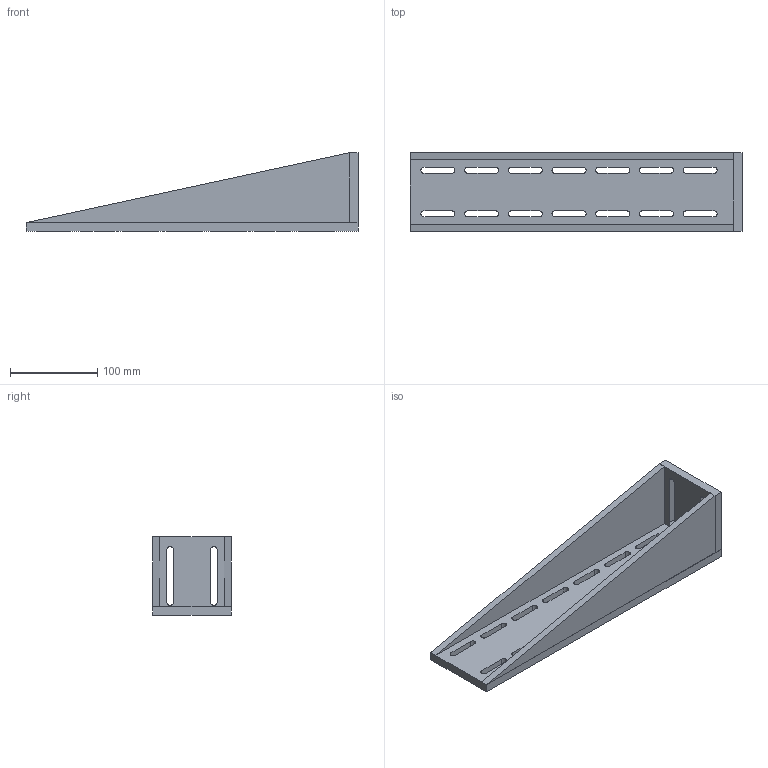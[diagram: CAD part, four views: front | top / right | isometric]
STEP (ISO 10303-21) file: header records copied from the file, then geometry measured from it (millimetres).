
FILE_DESCRIPTION (( 'STEP AP203' ), '1' );
FILE_NAME ('PJK09.STEP', '2020-11-07T05:45:13', ( '' ), ( '' ), 'SwSTEP 2.0', 'SolidWorks 2016', '' );
FILE_SCHEMA (( 'CONFIG_CONTROL_DESIGN' ));
Length unit declared in the file: millimetre
Products named in the file (4): PJK09; pjk09-耜啣; pjk09-菁啣; pjk09-樓Ч踐
Assembly tree (4 placements, depth 2):
  PJK09
    pjk09-菁啣
    pjk09-耜啣
    pjk09-樓Ч踐  x2
Bounding box: 380 x 90 x 90 mm (x, y, z)
Volume: 603359.3 mm3; surface area: 173480.9 mm2
Topology: 4 solids, 4 shells, 86 faces, 234 edges, 156 vertices
Faces by surface type: plane 54, cylinder 32
Entity records: 3113 total; most frequent: DIRECTION 465, CARTESIAN_POINT 463, ORIENTED_EDGE 450, EDGE_CURVE 225, LINE 161, VECTOR 161, AXIS2_PLACEMENT_3D 152, VERTEX_POINT 150
